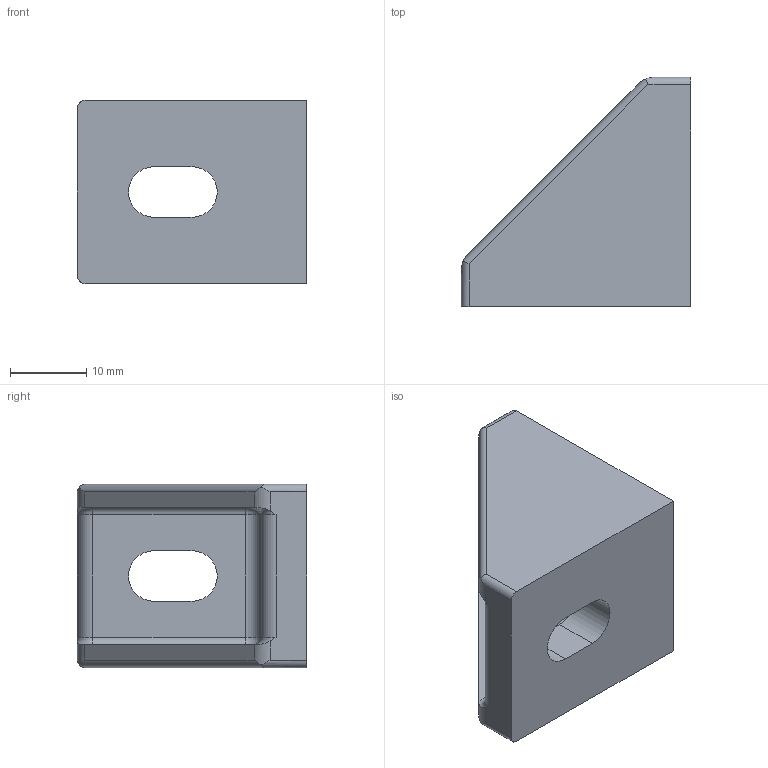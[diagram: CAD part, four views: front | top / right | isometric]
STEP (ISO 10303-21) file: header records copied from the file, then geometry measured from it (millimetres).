
FILE_DESCRIPTION (( 'STEP AP203' ), '1' );
FILE_NAME ('WT2430-6.STEP', '2024-02-19T00:58:56', ( '' ), ( '' ), 'SwSTEP 2.0', 'SolidWorks 2022', '' );
FILE_SCHEMA (( 'CONFIG_CONTROL_DESIGN' ));
Length unit declared in the file: millimetre
Products named in the file (1): WT2430-6
Bounding box: 30 x 30 x 24 mm (x, y, z)
Volume: 8681.2 mm3; surface area: 4568.2 mm2
Topology: 1 solids, 1 shells, 44 faces, 118 edges, 76 vertices
Faces by surface type: cylinder 22, plane 16, torus 6
Entity records: 1517 total; most frequent: CARTESIAN_POINT 339, ORIENTED_EDGE 236, DIRECTION 226, EDGE_CURVE 118, AXIS2_PLACEMENT_3D 83, VERTEX_POINT 76, LINE 60, VECTOR 60
